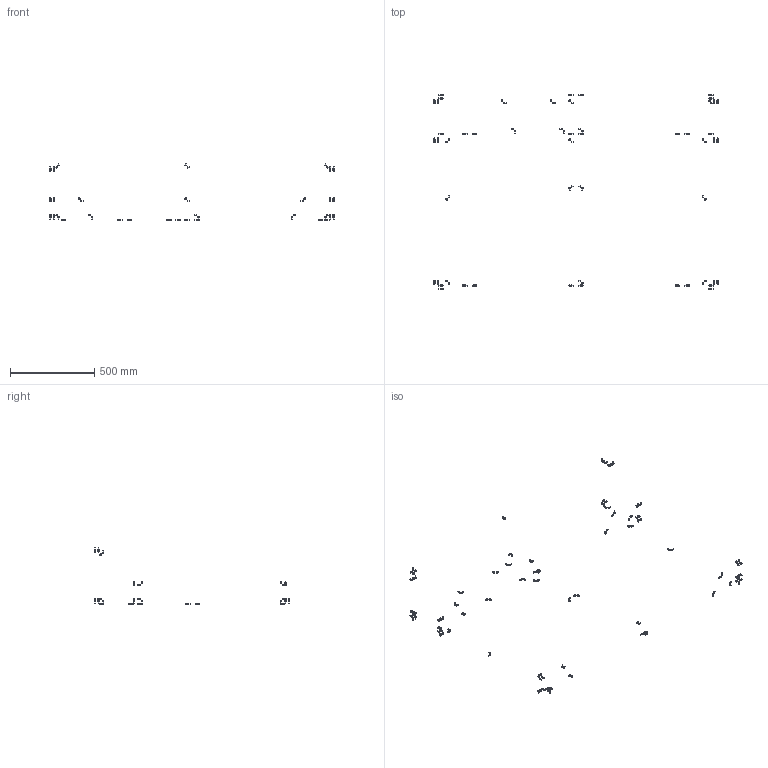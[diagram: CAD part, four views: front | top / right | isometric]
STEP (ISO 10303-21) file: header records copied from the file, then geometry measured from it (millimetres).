
FILE_DESCRIPTION(/* description */ (''),/* implementation_level */ '2;1');
FILE_NAME(/* name */ 'FR2C24~1',/* time_stamp */ '2014-02-14T19:31:28+01:00',/* author */ (''),/* organization */ (''),/* preprocessor_version */ 'ST-DEVELOPER v14',/* originating_system */ '',/* authorisation */ '');
FILE_SCHEMA (('AUTOMOTIVE_DESIGN'));
Products named in the file (2): Document; screw DIN912-like, M5x10
Assembly tree (50 placements, depth 2):
  Document
    screw DIN912-like, M5x10  x50
Bounding box: 1688.5 x 1158.5 x 339.75 mm (x, y, z)
Volume: 58754 mm3; surface area: 57137.3 mm2
Topology: 134 solids, 134 shells, 3350 faces, 7504 edges, 4422 vertices
Faces by surface type: plane 2010, bspline 1340
Entity records: 115701 total; most frequent: CARTESIAN_POINT 53433, B_SPLINE_CURVE_WITH_KNOTS 10710, ORIENTED_EDGE 9180, PCURVE 9180, DEFINITIONAL_REPRESENTATION 9180, SURFACE_CURVE 4590, EDGE_CURVE 4590, VERTEX_POINT 2805
